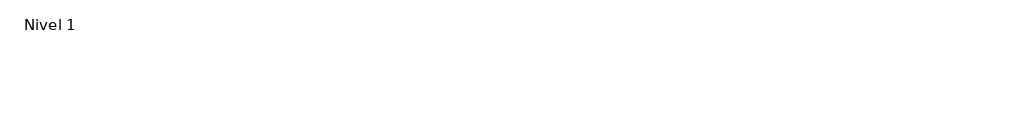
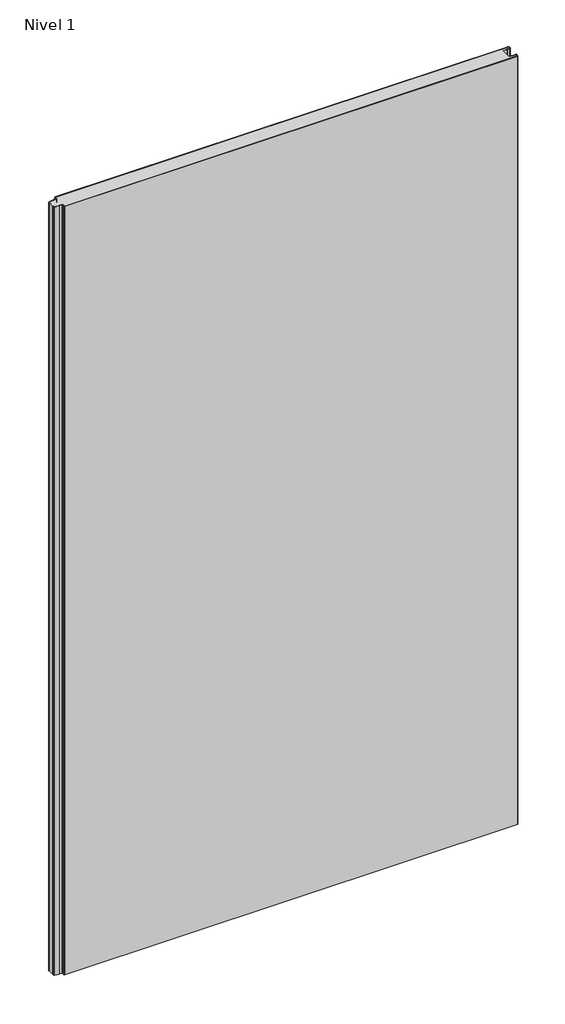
# One storey: 1 proxy.
"""IFC4 building model written with IfcOpenShell, lengths in millimetres."""

from ifc_helpers import new_model, si_unit, origin, place, context, project, spatial, transform, mapped, element, save
from components import panel_hi_quadcore_2_0_f40_liso_liso_hi_quadcore_2_0_f40_liso_9a9d5de7

model = new_model("IFC4")

# Units and contexts
model_context = context("Model", 3, world=origin())
ifc_project = project(units=[si_unit("LENGTHUNIT", "METRE", prefix="MILLI")], contexts=[model_context])

# Site, building, storey
site = spatial("IfcSite", under=ifc_project)
building = spatial("IfcBuilding", under=site)
storey = spatial("IfcBuildingStorey", under=building, Name="Nivel 1", Elevation=0.0)

# Proxy
placement = place(None, origin())
panel_hi_quadcore_2_0_f40_liso_liso_hi_quadcore_2_0_f40_liso_shape = panel_hi_quadcore_2_0_f40_liso_liso_hi_quadcore_2_0_f40_liso_9a9d5de7(model_context)
element("IfcBuildingElementProxy", 1, Name="Panel_HI_QuadCore 2.0 F40_liso-liso : HI-Quadcore 2.0 F40 liso-liso", ObjectType="Panel_HI_QuadCore 2.0 F40_liso-liso : HI-Quadcore 2.0 F40 liso-liso", at=placement, inside=storey, context=model_context, shape_type="MappedRepresentation", body=[
    mapped(panel_hi_quadcore_2_0_f40_liso_liso_hi_quadcore_2_0_f40_liso_shape, transform((179.0307103, 435.507424, 0.0), x_axis=(1.0, 0.0, 0.0), y_axis=(0.0, 1.0, 0.0), z_axis=(0.0, 0.0, 1.0))),
])

save(model, "model.ifc")
